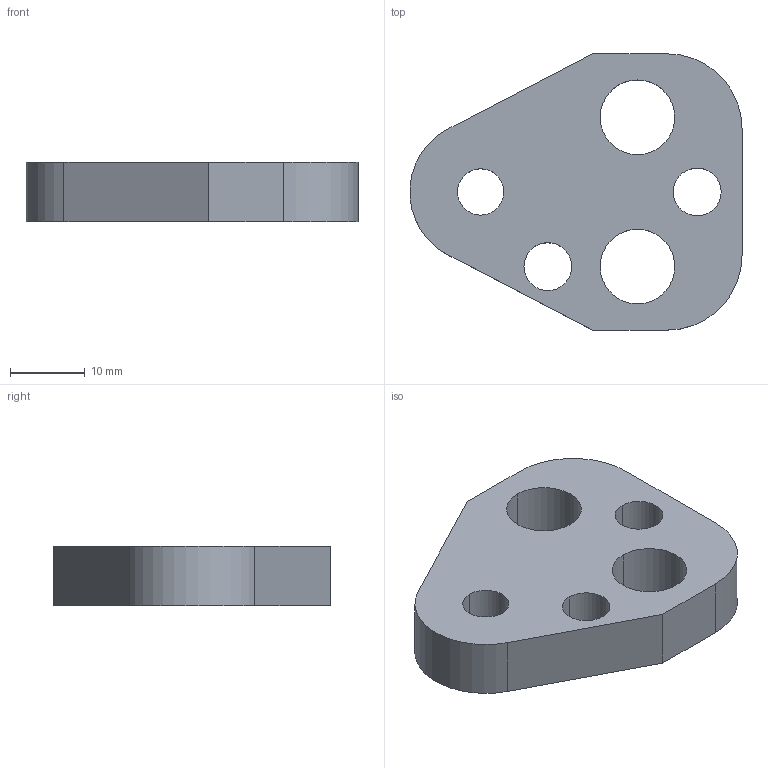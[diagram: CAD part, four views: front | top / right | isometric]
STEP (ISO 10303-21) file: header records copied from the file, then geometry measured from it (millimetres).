
FILE_DESCRIPTION(/* description */ (''),/* implementation_level */ '2;1');
FILE_NAME(/* name */ '3d_bpc10-8_03438_r00.stp',/* time_stamp */ '2011-01-10T14:17:11+09:00',/* author */ ('MISUMI'),/* organization */ (''),/* preprocessor_version */ 'ST-DEVELOPER v11',/* originating_system */ 'UGS - NX 5.0',/* authorisation */ '');
FILE_SCHEMA (('CONFIG_CONTROL_DESIGN'));
Length unit declared in the file: millimetre
Products named in the file (1): 3d_bpc10-8_03438_r00
Bounding box: 44.47 x 37 x 8 mm (x, y, z)
Volume: 8231.7 mm3; surface area: 4100.8 mm2
Topology: 1 solids, 1 shells, 20 faces, 54 edges, 36 vertices
Faces by surface type: cylinder 13, plane 7
Entity records: 750 total; most frequent: DIRECTION 122, CARTESIAN_POINT 111, ORIENTED_EDGE 108, EDGE_CURVE 54, AXIS2_PLACEMENT_3D 47, VERTEX_POINT 36, EDGE_LOOP 30, LINE 28
